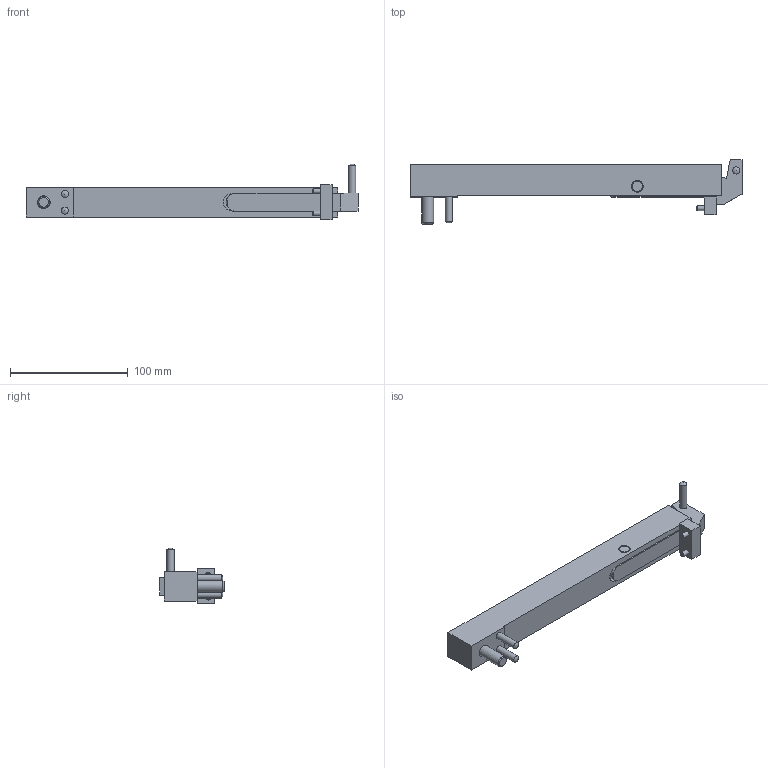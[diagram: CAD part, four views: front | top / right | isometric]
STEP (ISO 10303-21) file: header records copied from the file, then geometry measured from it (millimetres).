
FILE_DESCRIPTION(/* description */ ('STEP AP214'),/* implementation_level */ '2;1');
FILE_NAME(/* name */ 'KL13220',/* time_stamp */ '2024-12-19T07:59:57+01:00',/* author */ ('License CC BY-ND 4.0'),/* organization */ ('CADENAS'),/* preprocessor_version */ 'ST-DEVELOPER v19.3',/* originating_system */ 'PARTsolutions',/* authorisation */ ' ');
FILE_SCHEMA (('AUTOMOTIVE_DESIGN {1 0 10303 214 3 1 1}'));
Length unit declared in the file: millimetre
Products named in the file (10): KL13220; KL1322011; KL1322012; KL1322013; KL1322014; KL1322015; KL1322016; KL1322017; KL1322018; KL1322019
Assembly tree (11 placements, depth 2):
  KL13220
    KL1322011
    KL1322012
    KL1322013  x2
    KL1322014
    KL1322015
    KL1322016
    KL1322017
    KL1322018
    KL1322019  x2
Bounding box: 282 x 54.5 x 47.5 mm (x, y, z)
Volume: 190381.5 mm3; surface area: 53624 mm2
Topology: 11 solids, 11 shells, 118 faces, 269 edges, 177 vertices
Faces by surface type: plane 75, cylinder 26, cone 11, sphere 6
Full cylindrical faces by diameter (mm): 4 x2, 4.134 x1, 4.3 x2, 5 x1, 6 x6, 7 x2, 8 x2, 10 x5, 11 x1, 16 x1, 18 x1
Entity records: 2893 total; most frequent: DIRECTION 467, CARTESIAN_POINT 458, ORIENTED_EDGE 372, EDGE_CURVE 186, AXIS2_PLACEMENT_3D 169, EDGE_LOOP 159, FACE_BOUND 159, VERTEX_POINT 141
